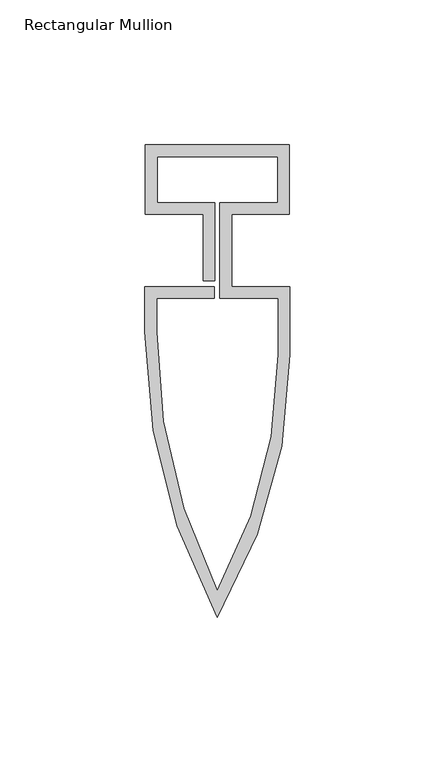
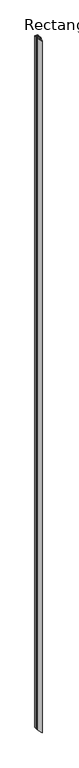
"""IFC4 building model written with IfcOpenShell, lengths in millimetres: member geometry, Rectangular Mullion : Reynaers_CW-50_Mullion-Transom_Horizontal_23.9mm_Facecap-05."""

from ifc_helpers import new_model, si_unit, point, frame, frame_2d, origin, place, context, project, spatial, polyline, circle_curve, trimmed, segment, composite_curve, outline, extrude, source, transform, mapped, element, save


def rectangular_mullion_c56df970(model_context):
    return source(origin(), model_context, "Body", "SweptSolid", [
        extrude(outline(composite_curve([segment(polyline([(-24.8004059, 36.4), (24.8004059, 36.4), (24.8004059, 12.5), (4.9004059, 12.5), (4.9004059, -12.5), (24.994845, -12.5), (24.994845, -36.0195976)]), True, "CONTINUOUS"), segment(trimmed(circle_curve(frame_2d((-151.2704106, -36.0195976)), 176.2652556), [point((24.994845, -36.0195976))], [point((0.0, -126.5))], False, "CARTESIAN"), True, "CONTINUOUS"), segment(trimmed(circle_curve(frame_2d((181.1469577, -28.111878)), 206.1418028), [point((0.0, -126.5))], [point((-24.994845, -28.111878))], False, "CARTESIAN"), True, "CONTINUOUS"), segment(polyline([(-24.994845, -28.111878), (-24.994845, -12.5), (-1.0995941, -12.5), (-1.0995941, -16.5), (-20.994845, -16.5), (-20.994845, -28.2355063)]), True, "CONTINUOUS"), segment(trimmed(circle_curve(frame_2d((179.2670132, -28.2355063)), 200.2618582), [point((-20.994845, -28.2355063))], [point((0.0, -117.5))], True, "CARTESIAN"), True, "CONTINUOUS"), segment(trimmed(circle_curve(frame_2d((-147.4777527, -36.0547506)), 168.4725977), [point((0.0, -117.5))], [point((20.994845, -36.0547506))], True, "CARTESIAN"), True, "CONTINUOUS"), segment(polyline([(20.994845, -36.0547506), (20.994845, -16.5), (0.9004059, -16.5), (0.9004059, 16.5), (20.8004059, 16.5), (20.8004059, 32.4), (-20.8004059, 32.4), (-20.8004059, 16.5), (-0.9004059, 16.5), (-0.9004059, -10.5), (-4.9004059, -10.5), (-4.9004059, 12.5), (-24.8004059, 12.5), (-24.8004059, 36.4)]), True, "CONTINUOUS")], self_intersect=False)), frame((0.0, 0.0, -12000.0), z_axis=(0.0, 0.0, 1.0), x_axis=(1.0, 0.0, 0.0)), (0.0, 0.0, 1.0), 12000.0),
    ])


if __name__ == "__main__":
    model = new_model("IFC4")
    model_context = context("Model", 3, world=origin())
    ifc_project = project(units=[si_unit("LENGTHUNIT", "METRE", prefix="MILLI")], contexts=[model_context])
    site = spatial("IfcSite", under=ifc_project)
    building = spatial("IfcBuilding", under=site)
    placement = place(None, origin())
    rectangular_mullion_shape = rectangular_mullion_c56df970(model_context)
    element("IfcMember", 1, ObjectType="Rectangular Mullion : Reynaers_CW-50_Mullion-Transom_Horizontal_23.9mm_Facecap-05", at=placement, inside=building, context=model_context, shape_type="MappedRepresentation", body=[
        mapped(rectangular_mullion_shape, transform((0.0, 0.0, 0.0), x_axis=(1.0, 0.0, 0.0), y_axis=(0.0, 1.0, 0.0), z_axis=(0.0, 0.0, 1.0))),
    ])
    save(model, "model.ifc")
